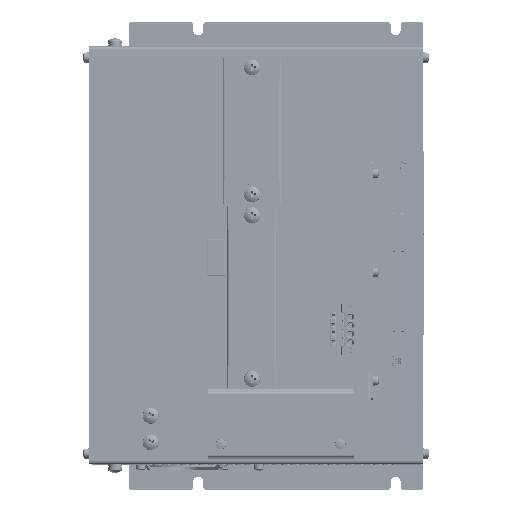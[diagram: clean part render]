
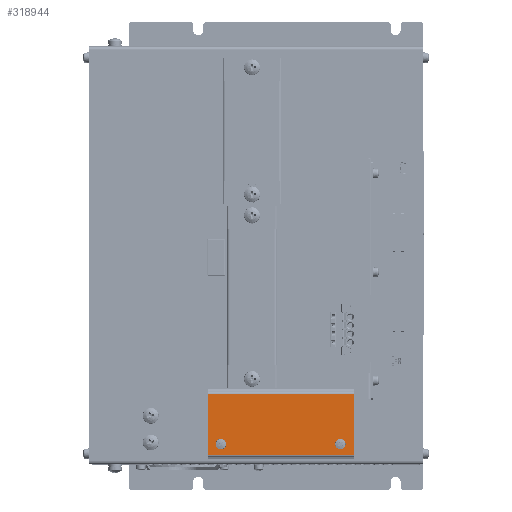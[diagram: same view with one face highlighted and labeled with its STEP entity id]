
A CAD part, top view. The second image highlights one B-rep face of the part: STEP entity #318944.
In plain terms, the highlighted planar face has unit normal (0, 0, 1).
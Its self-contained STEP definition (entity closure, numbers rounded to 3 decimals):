
#8405 = CARTESIAN_POINT ( 'NONE',  ( 6.528, -116.871, 193.343 ) ) ;
#20478 = CARTESIAN_POINT ( 'NONE',  ( -70.972, -87.071, 193.343 ) ) ;
#28600 = CIRCLE ( 'NONE', #394069, 2. ) ;
#37955 = DIRECTION ( 'NONE',  ( 0., -1., 0. ) ) ;
#40929 = EDGE_CURVE ( 'NONE', #183792, #142100, #202029, .T. ) ;
#45374 = DIRECTION ( 'NONE',  ( -1., 0., 0. ) ) ;
#48661 = EDGE_CURVE ( 'NONE', #191682, #402939, #231247, .T. ) ;
#58157 = FACE_OUTER_BOUND ( 'NONE', #64941, .T. ) ;
#61950 = EDGE_CURVE ( 'NONE', #402939, #258775, #75143, .T. ) ;
#64941 = EDGE_LOOP ( 'NONE', ( #235520, #252011, #327795, #74819 ) ) ;
#74819 = ORIENTED_EDGE ( 'NONE', *, *, #48661, .T. ) ;
#75143 = LINE ( 'NONE', #270871, #311607 ) ;
#76784 = CARTESIAN_POINT ( 'NONE',  ( -70.972, -123.371, 193.343 ) ) ;
#82315 = DIRECTION ( 'NONE',  ( 1., 0., 0. ) ) ;
#82898 = CARTESIAN_POINT ( 'NONE',  ( 16.528, -123.371, 193.343 ) ) ;
#101091 = CARTESIAN_POINT ( 'NONE',  ( -60.972, -116.871, 193.343 ) ) ;
#104115 = DIRECTION ( 'NONE',  ( 1., 0., 0. ) ) ;
#112280 = CIRCLE ( 'NONE', #115237, 2. ) ;
#112600 = VECTOR ( 'NONE', #104115, 1000. ) ;
#115237 = AXIS2_PLACEMENT_3D ( 'NONE', #169850, #400585, #396446 ) ;
#121325 = EDGE_LOOP ( 'NONE', ( #393738, #203751 ) ) ;
#122044 = CARTESIAN_POINT ( 'NONE',  ( 16.528, -124.371, 193.343 ) ) ;
#122665 = LINE ( 'NONE', #139159, #112600 ) ;
#123584 = CARTESIAN_POINT ( 'NONE',  ( 10.528, -116.871, 193.343 ) ) ;
#124221 = CIRCLE ( 'NONE', #215879, 2. ) ;
#127421 = CARTESIAN_POINT ( 'NONE',  ( 16.528, -87.071, 193.343 ) ) ;
#130152 = LINE ( 'NONE', #389728, #301076 ) ;
#132105 = EDGE_LOOP ( 'NONE', ( #150762, #210871 ) ) ;
#137373 = EDGE_CURVE ( 'NONE', #416755, #204515, #112280, .T. ) ;
#139159 = CARTESIAN_POINT ( 'NONE',  ( 16.528, -123.371, 193.343 ) ) ;
#142100 = VERTEX_POINT ( 'NONE', #123584 ) ;
#150762 = ORIENTED_EDGE ( 'NONE', *, *, #181793, .F. ) ;
#156673 = CARTESIAN_POINT ( 'NONE',  ( -64.972, -116.871, 193.343 ) ) ;
#161079 = EDGE_CURVE ( 'NONE', #191682, #363460, #130152, .T. ) ;
#169850 = CARTESIAN_POINT ( 'NONE',  ( -62.972, -116.871, 193.343 ) ) ;
#181793 = EDGE_CURVE ( 'NONE', #142100, #183792, #124221, .T. ) ;
#182503 = DIRECTION ( 'NONE',  ( 0., 0., -1. ) ) ;
#183792 = VERTEX_POINT ( 'NONE', #8405 ) ;
#191682 = VERTEX_POINT ( 'NONE', #127421 ) ;
#202029 = CIRCLE ( 'NONE', #408148, 2. ) ;
#203751 = ORIENTED_EDGE ( 'NONE', *, *, #382380, .F. ) ;
#204515 = VERTEX_POINT ( 'NONE', #156673 ) ;
#210249 = DIRECTION ( 'NONE',  ( 0., 0., 1. ) ) ;
#210871 = ORIENTED_EDGE ( 'NONE', *, *, #40929, .F. ) ;
#215879 = AXIS2_PLACEMENT_3D ( 'NONE', #341042, #210249, #82315 ) ;
#231247 = LINE ( 'NONE', #332262, #236071 ) ;
#232407 = DIRECTION ( 'NONE',  ( 0., 0., 1. ) ) ;
#235177 = CARTESIAN_POINT ( 'NONE',  ( 8.528, -116.871, 193.343 ) ) ;
#235520 = ORIENTED_EDGE ( 'NONE', *, *, #61950, .T. ) ;
#236071 = VECTOR ( 'NONE', #45374, 1000. ) ;
#252011 = ORIENTED_EDGE ( 'NONE', *, *, #287908, .T. ) ;
#258775 = VERTEX_POINT ( 'NONE', #76784 ) ;
#261689 = AXIS2_PLACEMENT_3D ( 'NONE', #122044, #182503, #407683 ) ;
#270871 = CARTESIAN_POINT ( 'NONE',  ( -70.972, -124.371, 193.343 ) ) ;
#272262 = DIRECTION ( 'NONE',  ( 0., -1., 0. ) ) ;
#274279 = FACE_BOUND ( 'NONE', #121325, .T. ) ;
#279393 = PLANE ( 'NONE',  #261689 ) ;
#287908 = EDGE_CURVE ( 'NONE', #258775, #363460, #122665, .T. ) ;
#300882 = CARTESIAN_POINT ( 'NONE',  ( -62.972, -116.871, 193.343 ) ) ;
#301076 = VECTOR ( 'NONE', #37955, 1000. ) ;
#311607 = VECTOR ( 'NONE', #272262, 1000. ) ;
#318944 = ADVANCED_FACE ( 'NONE', ( #58157, #364820, #274279 ), #279393, .F. ) ;
#327795 = ORIENTED_EDGE ( 'NONE', *, *, #161079, .F. ) ;
#327814 = DIRECTION ( 'NONE',  ( 0., 0., 1. ) ) ;
#332198 = DIRECTION ( 'NONE',  ( 1., 0., 0. ) ) ;
#332262 = CARTESIAN_POINT ( 'NONE',  ( 16.528, -87.071, 193.343 ) ) ;
#341042 = CARTESIAN_POINT ( 'NONE',  ( 8.528, -116.871, 193.343 ) ) ;
#363460 = VERTEX_POINT ( 'NONE', #82898 ) ;
#364820 = FACE_BOUND ( 'NONE', #132105, .T. ) ;
#382380 = EDGE_CURVE ( 'NONE', #204515, #416755, #28600, .T. ) ;
#389728 = CARTESIAN_POINT ( 'NONE',  ( 16.528, -124.371, 193.343 ) ) ;
#393738 = ORIENTED_EDGE ( 'NONE', *, *, #137373, .F. ) ;
#394069 = AXIS2_PLACEMENT_3D ( 'NONE', #300882, #327814, #395476 ) ;
#395476 = DIRECTION ( 'NONE',  ( 1., 0., 0. ) ) ;
#396446 = DIRECTION ( 'NONE',  ( 1., 0., 0. ) ) ;
#400585 = DIRECTION ( 'NONE',  ( 0., 0., 1. ) ) ;
#402939 = VERTEX_POINT ( 'NONE', #20478 ) ;
#407683 = DIRECTION ( 'NONE',  ( 0., -1., 0. ) ) ;
#408148 = AXIS2_PLACEMENT_3D ( 'NONE', #235177, #232407, #332198 ) ;
#416755 = VERTEX_POINT ( 'NONE', #101091 ) ;
